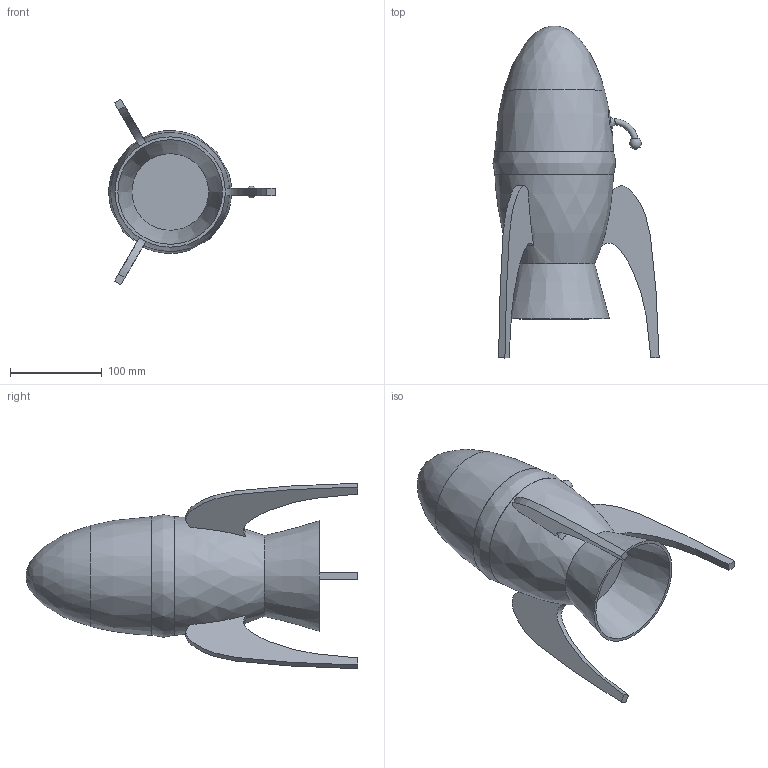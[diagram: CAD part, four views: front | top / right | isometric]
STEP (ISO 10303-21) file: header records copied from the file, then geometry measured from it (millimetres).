
FILE_DESCRIPTION(/* description */ (''),/* implementation_level */ '2;1');
FILE_NAME(/* name */ 'C:\Users\andre\OneDrive\Documents\SQA\Item Writer\Concepts\3\STEP Files\Rocket\Rocket.stp',/* time_stamp */ '2019-05-27T16:23:00+01:00',/* author */ ('andre'),/* organization */ (''),/* preprocessor_version */ 'ST-DEVELOPER v16.13',/* originating_system */ 'Autodesk Inventor 2018',/* authorisation */ '');
FILE_SCHEMA (('AUTOMOTIVE_DESIGN { 1 0 10303 214 3 1 1 }'));
Length unit declared in the file: millimetre
Products named in the file (7): Rocket; Part1; Part2; Part4; Part7; Part8; Rocket_Part6
Assembly tree (6 placements, depth 2):
  Rocket
    Part1
    Part2
    Part4
    Part7
    Part8
    Rocket_Part6
Bounding box: 181.57 x 362.47 x 202.49 mm (x, y, z)
Volume: 2723528.6 mm3; surface area: 315584.9 mm2
Topology: 6 solids, 6 shells, 65 faces, 144 edges, 91 vertices
Faces by surface type: plane 37, bspline 16, cylinder 6, torus 3, cone 2, sphere 1
Full cylindrical faces by diameter (mm): 30 x1, 35 x2
Entity records: 2675 total; most frequent: CARTESIAN_POINT 1109, DIRECTION 274, ORIENTED_EDGE 262, EDGE_CURVE 128, AXIS2_PLACEMENT_3D 106, VERTEX_POINT 87, EDGE_LOOP 83, FACE_OUTER_BOUND 65
